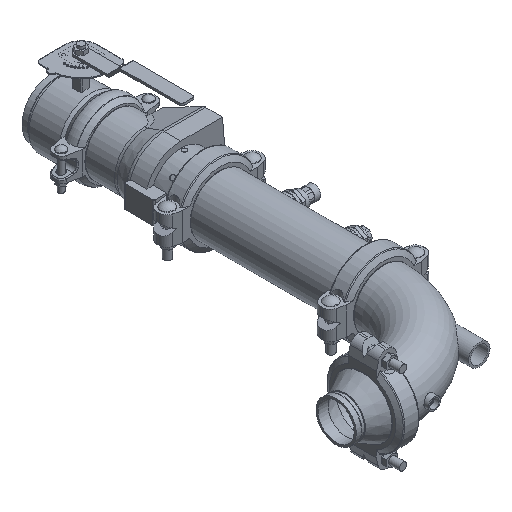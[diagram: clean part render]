
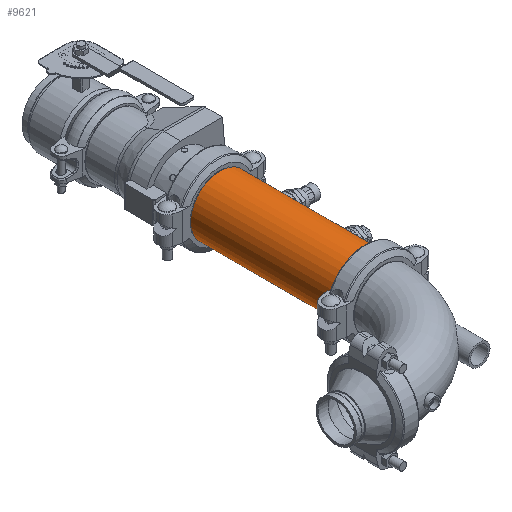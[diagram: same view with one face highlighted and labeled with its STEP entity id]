
A CAD part, isometric view. The second image highlights one B-rep face of the part: STEP entity #9621.
In plain terms, the highlighted cylindrical face has radius 84.138 mm (diameter 168.275 mm), a full revolution.
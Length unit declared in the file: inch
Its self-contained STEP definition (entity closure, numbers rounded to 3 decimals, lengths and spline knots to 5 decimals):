
#281=LINE('',#14547,#982);
#982=VECTOR('',#11556,3.3125);
#1683=CYLINDRICAL_SURFACE('',#10388,3.3125);
#1996=FACE_OUTER_BOUND('',#2540,.T.);
#2540=EDGE_LOOP('',(#6040,#6041,#6042,#6043,#6044,#6045));
#3194=CIRCLE('',#10386,3.3125);
#3195=CIRCLE('',#10387,3.3125);
#3196=CIRCLE('',#10389,3.3125);
#3197=CIRCLE('',#10390,3.3125);
#3731=VERTEX_POINT('',#14538);
#3732=VERTEX_POINT('',#14539);
#3733=VERTEX_POINT('',#14543);
#3734=VERTEX_POINT('',#14544);
#4655=EDGE_CURVE('',#3731,#3732,#3194,.T.);
#4656=EDGE_CURVE('',#3732,#3731,#3195,.T.);
#4657=EDGE_CURVE('',#3733,#3734,#3196,.T.);
#4658=EDGE_CURVE('',#3734,#3733,#3197,.T.);
#4659=EDGE_CURVE('',#3734,#3732,#281,.T.);
#6040=ORIENTED_EDGE('',*,*,#4657,.F.);
#6041=ORIENTED_EDGE('',*,*,#4658,.F.);
#6042=ORIENTED_EDGE('',*,*,#4659,.T.);
#6043=ORIENTED_EDGE('',*,*,#4656,.T.);
#6044=ORIENTED_EDGE('',*,*,#4655,.T.);
#6045=ORIENTED_EDGE('',*,*,#4659,.F.);
#9621=ADVANCED_FACE('',(#1996),#1683,.T.);
#10386=AXIS2_PLACEMENT_3D('',#14540,#11546,#11547);
#10387=AXIS2_PLACEMENT_3D('',#14541,#11548,#11549);
#10388=AXIS2_PLACEMENT_3D('',#14542,#11550,#11551);
#10389=AXIS2_PLACEMENT_3D('',#14545,#11552,#11553);
#10390=AXIS2_PLACEMENT_3D('',#14546,#11554,#11555);
#11546=DIRECTION('center_axis',(1.,0.,0.));
#11547=DIRECTION('ref_axis',(0.,0.,-1.));
#11548=DIRECTION('center_axis',(1.,0.,0.));
#11549=DIRECTION('ref_axis',(0.,0.,-1.));
#11550=DIRECTION('center_axis',(1.,0.,0.));
#11551=DIRECTION('ref_axis',(0.,1.,0.));
#11552=DIRECTION('center_axis',(1.,0.,0.));
#11553=DIRECTION('ref_axis',(0.,0.,-1.));
#11554=DIRECTION('center_axis',(1.,0.,0.));
#11555=DIRECTION('ref_axis',(0.,0.,-1.));
#11556=DIRECTION('',(-1.,0.,0.));
#14538=CARTESIAN_POINT('',(-8.04725,3.3125,0.));
#14539=CARTESIAN_POINT('',(-8.04725,-3.3125,0.));
#14540=CARTESIAN_POINT('Origin',(-8.04725,0.,0.));
#14541=CARTESIAN_POINT('Origin',(-8.04725,0.,0.));
#14542=CARTESIAN_POINT('Origin',(0.,0.,0.));
#14543=CARTESIAN_POINT('',(8.04725,3.3125,0.));
#14544=CARTESIAN_POINT('',(8.04725,-3.3125,0.));
#14545=CARTESIAN_POINT('Origin',(8.04725,0.,0.));
#14546=CARTESIAN_POINT('Origin',(8.04725,0.,0.));
#14547=CARTESIAN_POINT('',(0.,-3.3125,0.));
